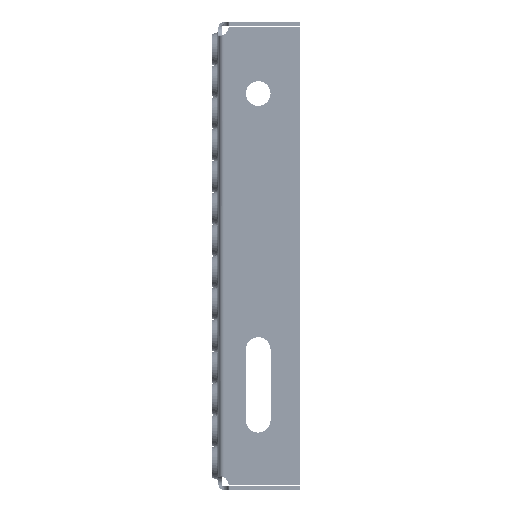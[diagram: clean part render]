
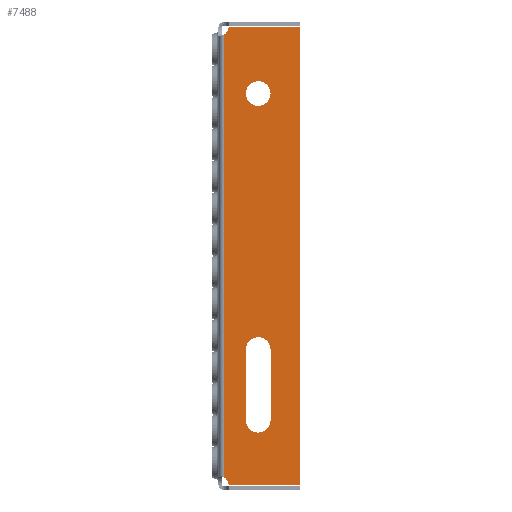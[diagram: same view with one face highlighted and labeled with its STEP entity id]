
A CAD part, left-side view. The second image highlights one B-rep face of the part: STEP entity #7488.
In plain terms, the highlighted planar face has unit normal (-1, 0, 0).
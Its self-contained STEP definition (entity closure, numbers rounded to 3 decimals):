
#187 = VECTOR ( 'NONE', #9023, 1000. ) ;
#1717 = ORIENTED_EDGE ( 'NONE', *, *, #40103, .F. ) ;
#1803 = VERTEX_POINT ( 'NONE', #40131 ) ;
#1966 = VERTEX_POINT ( 'NONE', #9576 ) ;
#2091 = EDGE_LOOP ( 'NONE', ( #1717, #17625, #14129, #7827, #14992, #16080, #29222, #27136 ) ) ;
#2587 = AXIS2_PLACEMENT_3D ( 'NONE', #9382, #37595, #18820 ) ;
#3009 = LINE ( 'NONE', #30236, #20715 ) ;
#3169 = EDGE_CURVE ( 'NONE', #27097, #1966, #28359, .T. ) ;
#3560 = DIRECTION ( 'NONE',  ( 0., 0., 1. ) ) ;
#4335 = FACE_BOUND ( 'NONE', #33095, .T. ) ;
#4583 = EDGE_CURVE ( 'NONE', #1803, #18986, #33588, .T. ) ;
#5382 = CARTESIAN_POINT ( 'NONE',  ( -300., -0.5, -129.5 ) ) ;
#5609 = EDGE_CURVE ( 'NONE', #35582, #35582, #39826, .T. ) ;
#5749 = DIRECTION ( 'NONE',  ( 1., 0., 0. ) ) ;
#5751 = AXIS2_PLACEMENT_3D ( 'NONE', #12747, #34615, #15866 ) ;
#5856 = AXIS2_PLACEMENT_3D ( 'NONE', #24572, #5749, #27726 ) ;
#6145 = VECTOR ( 'NONE', #7073, 1000. ) ;
#6454 = CIRCLE ( 'NONE', #24223, 1. ) ;
#6664 = EDGE_CURVE ( 'NONE', #9271, #13222, #30925, .T. ) ;
#7073 = DIRECTION ( 'NONE',  ( 0., 1., 0. ) ) ;
#7287 = DIRECTION ( 'NONE',  ( -1., 0., 0. ) ) ;
#7293 = ORIENTED_EDGE ( 'NONE', *, *, #5609, .F. ) ;
#7488 = ADVANCED_FACE ( 'NONE', ( #34761, #11763, #4335 ), #40609, .F. ) ;
#7690 = CARTESIAN_POINT ( 'NONE',  ( -300., -5.43, -128.667 ) ) ;
#7827 = ORIENTED_EDGE ( 'NONE', *, *, #4583, .T. ) ;
#8140 = CARTESIAN_POINT ( 'NONE',  ( -300., -15.5, -93. ) ) ;
#8573 = DIRECTION ( 'NONE',  ( 0., 0., -1. ) ) ;
#8876 = VERTEX_POINT ( 'NONE', #18728 ) ;
#9023 = DIRECTION ( 'NONE',  ( 0., -1., 0. ) ) ;
#9271 = VERTEX_POINT ( 'NONE', #8140 ) ;
#9382 = CARTESIAN_POINT ( 'NONE',  ( -300., 0.5, -135.416 ) ) ;
#9462 = ORIENTED_EDGE ( 'NONE', *, *, #6664, .F. ) ;
#9576 = CARTESIAN_POINT ( 'NONE',  ( -300., -3., 125.17 ) ) ;
#9801 = CARTESIAN_POINT ( 'NONE',  ( -300., -29.5, -53. ) ) ;
#11458 = CARTESIAN_POINT ( 'NONE',  ( -300., -15.5, -53. ) ) ;
#11740 = DIRECTION ( 'NONE',  ( 0., 0., 1. ) ) ;
#11763 = FACE_BOUND ( 'NONE', #38447, .T. ) ;
#12199 = EDGE_CURVE ( 'NONE', #16943, #27097, #6454, .T. ) ;
#12747 = CARTESIAN_POINT ( 'NONE',  ( -300., -22.5, -93. ) ) ;
#13222 = VERTEX_POINT ( 'NONE', #37630 ) ;
#13585 = CARTESIAN_POINT ( 'NONE',  ( -300., -6.416, 129.5 ) ) ;
#13728 = DIRECTION ( 'NONE',  ( -1., 0., 0. ) ) ;
#13896 = CARTESIAN_POINT ( 'NONE',  ( -300., -22.5, 92. ) ) ;
#14090 = VERTEX_POINT ( 'NONE', #7690 ) ;
#14129 = ORIENTED_EDGE ( 'NONE', *, *, #33298, .T. ) ;
#14889 = CARTESIAN_POINT ( 'NONE',  ( -300., -46., -129.5 ) ) ;
#14915 = AXIS2_PLACEMENT_3D ( 'NONE', #18197, #40126, #21353 ) ;
#14992 = ORIENTED_EDGE ( 'NONE', *, *, #17916, .T. ) ;
#15573 = VERTEX_POINT ( 'NONE', #11458 ) ;
#15590 = ORIENTED_EDGE ( 'NONE', *, *, #29807, .F. ) ;
#15866 = DIRECTION ( 'NONE',  ( 0., 0., -1. ) ) ;
#16080 = ORIENTED_EDGE ( 'NONE', *, *, #36721, .T. ) ;
#16257 = LINE ( 'NONE', #18104, #17226 ) ;
#16363 = VECTOR ( 'NONE', #11740, 1000. ) ;
#16943 = VERTEX_POINT ( 'NONE', #13585 ) ;
#17041 = DIRECTION ( 'NONE',  ( 0., 0., -1. ) ) ;
#17226 = VECTOR ( 'NONE', #36880, 1000. ) ;
#17625 = ORIENTED_EDGE ( 'NONE', *, *, #35018, .T. ) ;
#17765 = DIRECTION ( 'NONE',  ( 0., 0., -1. ) ) ;
#17916 = EDGE_CURVE ( 'NONE', #18986, #8876, #23729, .T. ) ;
#17972 = CARTESIAN_POINT ( 'NONE',  ( -300., -29.5, -53. ) ) ;
#18104 = CARTESIAN_POINT ( 'NONE',  ( -300., -3., -135.416 ) ) ;
#18197 = CARTESIAN_POINT ( 'NONE',  ( -300., -22.5, -53. ) ) ;
#18728 = CARTESIAN_POINT ( 'NONE',  ( -300., -46., 129.5 ) ) ;
#18820 = DIRECTION ( 'NONE',  ( 0., 0., -1. ) ) ;
#18986 = VERTEX_POINT ( 'NONE', #14889 ) ;
#20715 = VECTOR ( 'NONE', #17765, 1000. ) ;
#21335 = ORIENTED_EDGE ( 'NONE', *, *, #35359, .F. ) ;
#21353 = DIRECTION ( 'NONE',  ( 0., 0., -1. ) ) ;
#21658 = CIRCLE ( 'NONE', #39525, 1. ) ;
#21994 = VECTOR ( 'NONE', #3560, 1000. ) ;
#23729 = LINE ( 'NONE', #27899, #16363 ) ;
#24223 = AXIS2_PLACEMENT_3D ( 'NONE', #32471, #13728, #35634 ) ;
#24572 = CARTESIAN_POINT ( 'NONE',  ( -300., -0.5, 129.5 ) ) ;
#24921 = CARTESIAN_POINT ( 'NONE',  ( -300., -22.5, 85. ) ) ;
#24948 = EDGE_CURVE ( 'NONE', #15573, #9271, #3009, .T. ) ;
#25466 = CIRCLE ( 'NONE', #26246, 5. ) ;
#25898 = CARTESIAN_POINT ( 'NONE',  ( -300., -46., 129.5 ) ) ;
#25900 = ORIENTED_EDGE ( 'NONE', *, *, #24948, .F. ) ;
#26114 = CARTESIAN_POINT ( 'NONE',  ( -300., -6.416, -128.5 ) ) ;
#26246 = AXIS2_PLACEMENT_3D ( 'NONE', #5382, #27365, #8573 ) ;
#27097 = VERTEX_POINT ( 'NONE', #32620 ) ;
#27136 = ORIENTED_EDGE ( 'NONE', *, *, #3169, .T. ) ;
#27294 = AXIS2_PLACEMENT_3D ( 'NONE', #13896, #35805, #17041 ) ;
#27365 = DIRECTION ( 'NONE',  ( 1., 0., 0. ) ) ;
#27654 = VERTEX_POINT ( 'NONE', #38354 ) ;
#27726 = DIRECTION ( 'NONE',  ( 0., 0., -1. ) ) ;
#27805 = CARTESIAN_POINT ( 'NONE',  ( -300., -6.416, -129.5 ) ) ;
#27899 = CARTESIAN_POINT ( 'NONE',  ( -300., -46., -129.5 ) ) ;
#28359 = CIRCLE ( 'NONE', #5856, 5. ) ;
#29222 = ORIENTED_EDGE ( 'NONE', *, *, #12199, .T. ) ;
#29227 = DIRECTION ( 'NONE',  ( 0., 0., -1. ) ) ;
#29807 = EDGE_CURVE ( 'NONE', #40073, #15573, #40510, .T. ) ;
#30236 = CARTESIAN_POINT ( 'NONE',  ( -300., -15.5, -53. ) ) ;
#30925 = CIRCLE ( 'NONE', #5751, 7. ) ;
#31299 = LINE ( 'NONE', #9801, #21994 ) ;
#32471 = CARTESIAN_POINT ( 'NONE',  ( -300., -6.416, 128.5 ) ) ;
#32620 = CARTESIAN_POINT ( 'NONE',  ( -300., -5.43, 128.667 ) ) ;
#33095 = EDGE_LOOP ( 'NONE', ( #25900, #15590, #21335, #9462 ) ) ;
#33298 = EDGE_CURVE ( 'NONE', #14090, #1803, #21658, .T. ) ;
#33588 = LINE ( 'NONE', #27805, #187 ) ;
#34615 = DIRECTION ( 'NONE',  ( -1., 0., 0. ) ) ;
#34761 = FACE_OUTER_BOUND ( 'NONE', #2091, .T. ) ;
#35018 = EDGE_CURVE ( 'NONE', #27654, #14090, #25466, .T. ) ;
#35359 = EDGE_CURVE ( 'NONE', #13222, #40073, #31299, .T. ) ;
#35582 = VERTEX_POINT ( 'NONE', #24921 ) ;
#35634 = DIRECTION ( 'NONE',  ( 0., 0., 1. ) ) ;
#35805 = DIRECTION ( 'NONE',  ( -1., 0., 0. ) ) ;
#36721 = EDGE_CURVE ( 'NONE', #8876, #16943, #40494, .T. ) ;
#36880 = DIRECTION ( 'NONE',  ( 0., 0., 1. ) ) ;
#37595 = DIRECTION ( 'NONE',  ( 1., 0., 0. ) ) ;
#37630 = CARTESIAN_POINT ( 'NONE',  ( -300., -29.5, -93. ) ) ;
#38354 = CARTESIAN_POINT ( 'NONE',  ( -300., -3., -125.17 ) ) ;
#38447 = EDGE_LOOP ( 'NONE', ( #7293 ) ) ;
#39525 = AXIS2_PLACEMENT_3D ( 'NONE', #26114, #7287, #29227 ) ;
#39826 = CIRCLE ( 'NONE', #27294, 7. ) ;
#40073 = VERTEX_POINT ( 'NONE', #17972 ) ;
#40103 = EDGE_CURVE ( 'NONE', #27654, #1966, #16257, .T. ) ;
#40126 = DIRECTION ( 'NONE',  ( -1., 0., 0. ) ) ;
#40131 = CARTESIAN_POINT ( 'NONE',  ( -300., -6.416, -129.5 ) ) ;
#40494 = LINE ( 'NONE', #25898, #6145 ) ;
#40510 = CIRCLE ( 'NONE', #14915, 7. ) ;
#40609 = PLANE ( 'NONE',  #2587 ) ;
